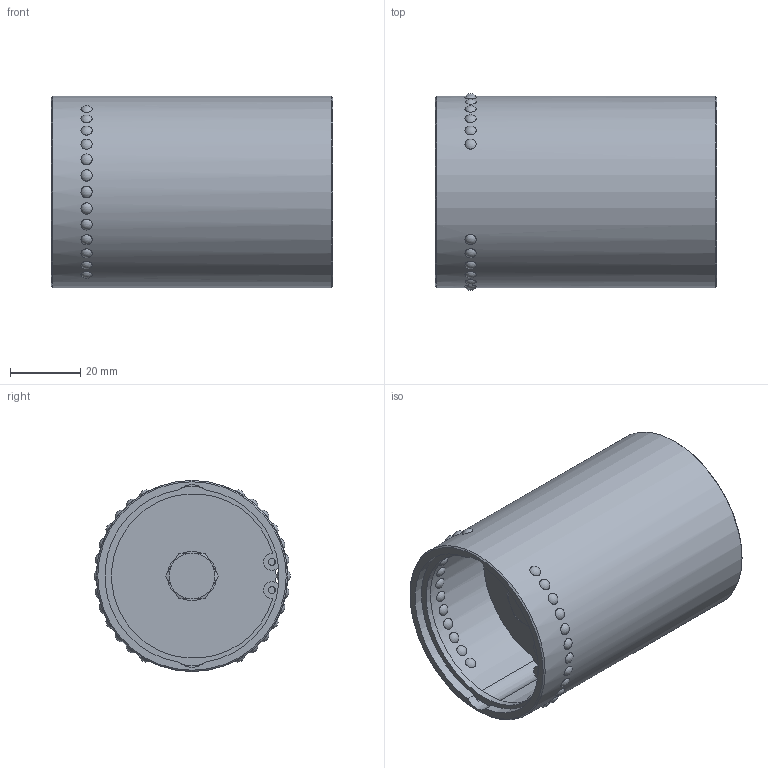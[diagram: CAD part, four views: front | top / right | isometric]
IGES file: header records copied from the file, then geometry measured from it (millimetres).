
Global section: file name: GSAB4880.ipt; native system: Autodesk Inventor 2021; preprocessor: unknown; author: SM; date: 20220119.063637; units: millimetre
Bounding box: 80 x 56 x 54.4 mm (x, y, z)
Volume: 36050.7 mm3; surface area: 33748.4 mm2
Topology: 5 solids, 5 shells, 108 faces, 190 edges, 144 vertices
Faces by surface type: sphere 52, plane 24, revolution 12, cylinder 11, cone 9
Full cylindrical faces by diameter (mm): 8 x1, 12 x1, 14 x1, 54.4 x1
